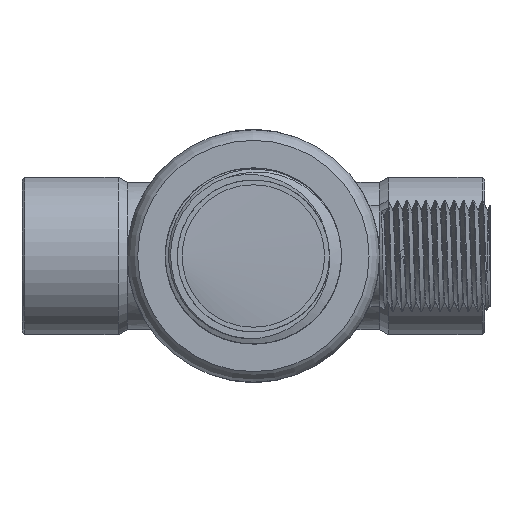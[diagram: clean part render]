
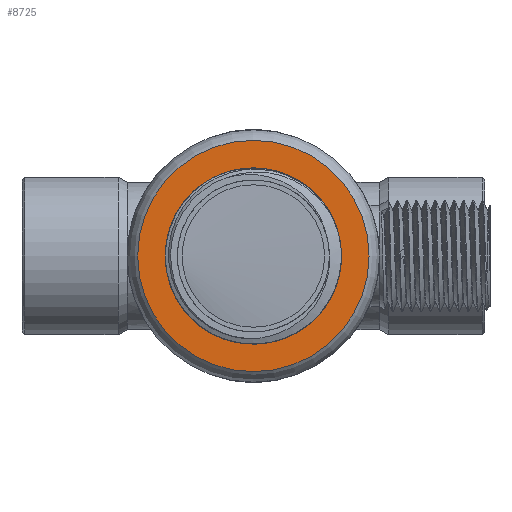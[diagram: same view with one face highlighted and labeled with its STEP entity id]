
A CAD part, left-side view. The second image highlights one B-rep face of the part: STEP entity #8725.
In plain terms, the highlighted planar face has unit normal (-1, 0, 0).
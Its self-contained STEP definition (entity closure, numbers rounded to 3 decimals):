
#144=PLANE('',#9386);
#270=FACE_BOUND('',#1488,.T.);
#276=CIRCLE('',#8782,16.75);
#277=CIRCLE('',#8783,16.75);
#342=CIRCLE('',#9072,22.);
#343=CIRCLE('',#9073,22.);
#953=FACE_OUTER_BOUND('',#1487,.T.);
#1487=EDGE_LOOP('',(#7937,#7938));
#1488=EDGE_LOOP('',(#7939,#7940));
#3207=VERTEX_POINT('',#12250);
#3208=VERTEX_POINT('',#12252);
#3646=VERTEX_POINT('',#27477);
#3647=VERTEX_POINT('',#27479);
#4089=EDGE_CURVE('',#3207,#3208,#276,.T.);
#4090=EDGE_CURVE('',#3208,#3207,#277,.T.);
#4746=EDGE_CURVE('',#3647,#3646,#342,.T.);
#4747=EDGE_CURVE('',#3646,#3647,#343,.T.);
#7937=ORIENTED_EDGE('',*,*,#4746,.T.);
#7938=ORIENTED_EDGE('',*,*,#4747,.T.);
#7939=ORIENTED_EDGE('',*,*,#4090,.F.);
#7940=ORIENTED_EDGE('',*,*,#4089,.F.);
#8725=ADVANCED_FACE('',(#953,#270),#144,.T.);
#8782=AXIS2_PLACEMENT_3D('',#12253,#9506,#9507);
#8783=AXIS2_PLACEMENT_3D('',#12254,#9508,#9509);
#9072=AXIS2_PLACEMENT_3D('',#27480,#10286,#10287);
#9073=AXIS2_PLACEMENT_3D('',#27481,#10288,#10289);
#9386=AXIS2_PLACEMENT_3D('',#40294,#11182,#11183);
#9506=DIRECTION('center_axis',(-1.,0.,0.));
#9507=DIRECTION('ref_axis',(0.,0.,1.));
#9508=DIRECTION('center_axis',(-1.,0.,0.));
#9509=DIRECTION('ref_axis',(0.,0.,1.));
#10286=DIRECTION('center_axis',(-1.,0.,0.));
#10287=DIRECTION('ref_axis',(0.,0.,1.));
#10288=DIRECTION('center_axis',(-1.,0.,0.));
#10289=DIRECTION('ref_axis',(0.,0.,1.));
#11182=DIRECTION('center_axis',(-1.,0.,0.));
#11183=DIRECTION('ref_axis',(0.,0.,1.));
#12250=CARTESIAN_POINT('',(-252.5,16.75,0.));
#12252=CARTESIAN_POINT('',(-252.5,-16.75,0.));
#12253=CARTESIAN_POINT('Origin',(-252.5,0.,
0.));
#12254=CARTESIAN_POINT('Origin',(-252.5,0.,
0.));
#27477=CARTESIAN_POINT('',(-252.5,0.,22.));
#27479=CARTESIAN_POINT('',(-252.5,-22.,0.));
#27480=CARTESIAN_POINT('Origin',(-252.5,0.,
0.));
#27481=CARTESIAN_POINT('Origin',(-252.5,0.,
0.));
#40294=CARTESIAN_POINT('Origin',(-252.5,-16.75,0.));
